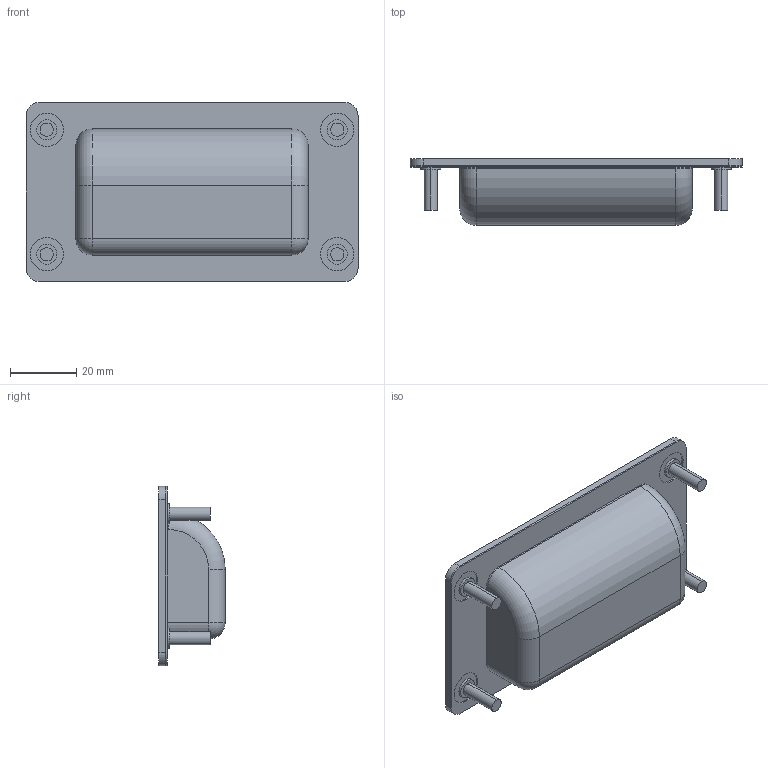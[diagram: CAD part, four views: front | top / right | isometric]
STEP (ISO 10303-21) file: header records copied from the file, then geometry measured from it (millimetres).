
FILE_DESCRIPTION (( 'STEP AP214' ), '1' );
FILE_NAME ('LS018.STEP', '2023-06-28T01:40:46', ( 'Windows 蚚誧' ), ( '' ), 'SwSTEP 2.0', 'SolidWorks 2019', '' );
FILE_SCHEMA (( 'AUTOMOTIVE_DESIGN' ));
Length unit declared in the file: millimetre
Products named in the file (1): LS018
Bounding box: 100 x 20 x 54 mm (x, y, z)
Volume: 11917.6 mm3; surface area: 24987.3 mm2
Topology: 6 solids, 6 shells, 98 faces, 224 edges, 140 vertices
Faces by surface type: cylinder 52, plane 38, torus 4, sphere 4
Entity records: 3929 total; most frequent: DIRECTION 526, CARTESIAN_POINT 459, ORIENTED_EDGE 440, EDGE_CURVE 220, AXIS2_PLACEMENT_3D 207, VERTEX_POINT 140, EDGE_LOOP 114, VECTOR 112
